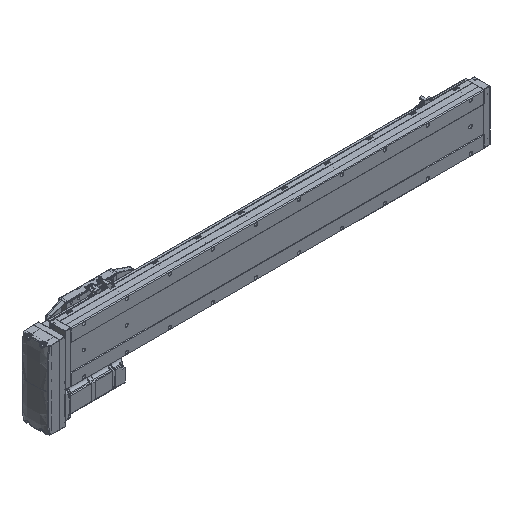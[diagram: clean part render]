
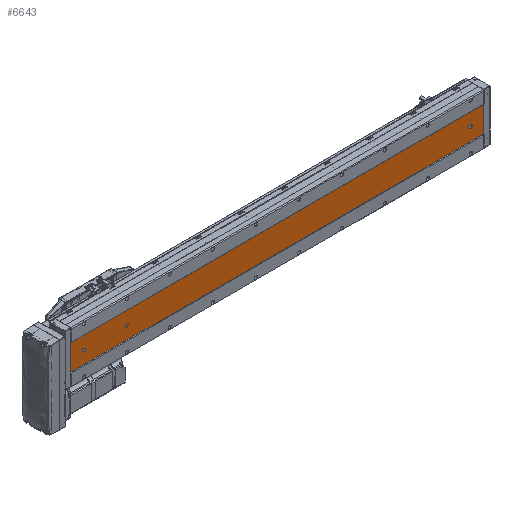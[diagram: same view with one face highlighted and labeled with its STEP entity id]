
A CAD part, isometric view. The second image highlights one B-rep face of the part: STEP entity #6643.
In plain terms, the highlighted planar face has unit normal (0, -1, 0).
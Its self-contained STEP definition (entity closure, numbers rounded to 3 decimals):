
#202 = EDGE_CURVE ( 'NONE', #18356, #55794, #32560, .T. ) ;
#2079 = PLANE ( 'NONE',  #28845 ) ;
#2330 = CARTESIAN_POINT ( 'NONE',  ( -39.892, -52.848, 827.5 ) ) ;
#2980 = LINE ( 'NONE', #37071, #73500 ) ;
#3958 = CIRCLE ( 'NONE', #7299, 3.5 ) ;
#4096 = EDGE_CURVE ( 'NONE', #54450, #49932, #24594, .T. ) ;
#4420 = DIRECTION ( 'NONE',  ( 0., 0., 1. ) ) ;
#5486 = FACE_OUTER_BOUND ( 'NONE', #45948, .T. ) ;
#6013 = EDGE_CURVE ( 'NONE', #56969, #41887, #58754, .T. ) ;
#6404 = VERTEX_POINT ( 'NONE', #51181 ) ;
#6546 = VECTOR ( 'NONE', #16145, 1000. ) ;
#6643 = ADVANCED_FACE ( 'NONE', ( #51528, #80124, #18780, #5486 ), #2079, .F. ) ;
#6940 = LINE ( 'NONE', #46637, #57974 ) ;
#7299 = AXIS2_PLACEMENT_3D ( 'NONE', #76180, #69909, #37367 ) ;
#7554 = CARTESIAN_POINT ( 'NONE',  ( -39.892, -52.848, 26.5 ) ) ;
#7706 = ORIENTED_EDGE ( 'NONE', *, *, #9580, .T. ) ;
#8050 = CARTESIAN_POINT ( 'NONE',  ( -39.892, -52.848, 831. ) ) ;
#9075 = ORIENTED_EDGE ( 'NONE', *, *, #51577, .T. ) ;
#9580 = EDGE_CURVE ( 'NONE', #41887, #56969, #46934, .T. ) ;
#11309 = VERTEX_POINT ( 'NONE', #26882 ) ;
#11596 = EDGE_CURVE ( 'NONE', #66122, #74610, #3958, .T. ) ;
#11718 = EDGE_CURVE ( 'NONE', #11309, #66122, #64222, .T. ) ;
#12088 = EDGE_CURVE ( 'NONE', #49932, #60647, #6940, .T. ) ;
#14264 = ORIENTED_EDGE ( 'NONE', *, *, #14597, .T. ) ;
#14597 = EDGE_CURVE ( 'NONE', #74610, #15213, #32148, .T. ) ;
#15213 = VERTEX_POINT ( 'NONE', #49954 ) ;
#15727 = EDGE_LOOP ( 'NONE', ( #35881, #23816 ) ) ;
#16145 = DIRECTION ( 'NONE',  ( 0., 0., 1. ) ) ;
#16817 = CARTESIAN_POINT ( 'NONE',  ( -9.892, -52.848, 961. ) ) ;
#17095 = DIRECTION ( 'NONE',  ( 0., 0., -1. ) ) ;
#17818 = ORIENTED_EDGE ( 'NONE', *, *, #6013, .T. ) ;
#17821 = EDGE_CURVE ( 'NONE', #54450, #61113, #2980, .T. ) ;
#18356 = VERTEX_POINT ( 'NONE', #46092 ) ;
#18780 = FACE_BOUND ( 'NONE', #15727, .T. ) ;
#19803 = DIRECTION ( 'NONE',  ( 1., 0., 0. ) ) ;
#19877 = DIRECTION ( 'NONE',  ( 0., 0., 1. ) ) ;
#20797 = CARTESIAN_POINT ( 'NONE',  ( -39.892, -52.848, 931. ) ) ;
#22413 = CARTESIAN_POINT ( 'NONE',  ( -43.392, -52.848, 961. ) ) ;
#23816 = ORIENTED_EDGE ( 'NONE', *, *, #64592, .T. ) ;
#24354 = CARTESIAN_POINT ( 'NONE',  ( -43.392, -52.848, 30. ) ) ;
#24432 = AXIS2_PLACEMENT_3D ( 'NONE', #47271, #58982, #19877 ) ;
#24594 = LINE ( 'NONE', #42654, #45058 ) ;
#25430 = CARTESIAN_POINT ( 'NONE',  ( -9.892, -52.848, 0. ) ) ;
#26773 = EDGE_LOOP ( 'NONE', ( #7706, #17818 ) ) ;
#26882 = CARTESIAN_POINT ( 'NONE',  ( -36.392, -52.848, 30. ) ) ;
#27382 = DIRECTION ( 'NONE',  ( 0., 1., 0. ) ) ;
#27616 = VECTOR ( 'NONE', #32482, 1000. ) ;
#28845 = AXIS2_PLACEMENT_3D ( 'NONE', #61140, #35209, #47764 ) ;
#32148 = LINE ( 'NONE', #22413, #6546 ) ;
#32482 = DIRECTION ( 'NONE',  ( 0., 0., -1. ) ) ;
#32560 = CIRCLE ( 'NONE', #67846, 3.5 ) ;
#32792 = ORIENTED_EDGE ( 'NONE', *, *, #12088, .T. ) ;
#34322 = DIRECTION ( 'NONE',  ( 0., 0., 1. ) ) ;
#35209 = DIRECTION ( 'NONE',  ( 0., 1., 0. ) ) ;
#35881 = ORIENTED_EDGE ( 'NONE', *, *, #202, .T. ) ;
#37071 = CARTESIAN_POINT ( 'NONE',  ( -69.892, -52.848, 961. ) ) ;
#37367 = DIRECTION ( 'NONE',  ( 0., 0., 1. ) ) ;
#38270 = AXIS2_PLACEMENT_3D ( 'NONE', #43826, #62955, #4420 ) ;
#39091 = AXIS2_PLACEMENT_3D ( 'NONE', #68379, #48674, #67837 ) ;
#41887 = VERTEX_POINT ( 'NONE', #2330 ) ;
#42654 = CARTESIAN_POINT ( 'NONE',  ( -69.892, -52.848, 961. ) ) ;
#43826 = CARTESIAN_POINT ( 'NONE',  ( -39.892, -52.848, 32. ) ) ;
#45058 = VECTOR ( 'NONE', #76059, 1000. ) ;
#45948 = EDGE_LOOP ( 'NONE', ( #32792, #46328, #74516, #73714 ) ) ;
#46092 = CARTESIAN_POINT ( 'NONE',  ( -39.892, -52.848, 927.5 ) ) ;
#46328 = ORIENTED_EDGE ( 'NONE', *, *, #72802, .F. ) ;
#46637 = CARTESIAN_POINT ( 'NONE',  ( -69.892, -52.848, 0. ) ) ;
#46934 = CIRCLE ( 'NONE', #72859, 3.5 ) ;
#47271 = CARTESIAN_POINT ( 'NONE',  ( -39.892, -52.848, 831. ) ) ;
#47764 = DIRECTION ( 'NONE',  ( 0., 0., 1. ) ) ;
#47813 = DIRECTION ( 'NONE',  ( 0., 1., 0. ) ) ;
#48674 = DIRECTION ( 'NONE',  ( 0., 1., 0. ) ) ;
#48714 = DIRECTION ( 'NONE',  ( 0., 0., 1. ) ) ;
#49014 = LINE ( 'NONE', #71568, #27616 ) ;
#49124 = EDGE_LOOP ( 'NONE', ( #9075, #76363, #75814, #14264, #74153 ) ) ;
#49932 = VERTEX_POINT ( 'NONE', #65473 ) ;
#49954 = CARTESIAN_POINT ( 'NONE',  ( -43.392, -52.848, 32. ) ) ;
#50883 = VECTOR ( 'NONE', #17095, 1000. ) ;
#51181 = CARTESIAN_POINT ( 'NONE',  ( -36.392, -52.848, 32. ) ) ;
#51528 = FACE_BOUND ( 'NONE', #49124, .T. ) ;
#51577 = EDGE_CURVE ( 'NONE', #6404, #11309, #49014, .T. ) ;
#53788 = CARTESIAN_POINT ( 'NONE',  ( -39.892, -52.848, 931. ) ) ;
#54450 = VERTEX_POINT ( 'NONE', #64814 ) ;
#54594 = CARTESIAN_POINT ( 'NONE',  ( -39.892, -52.848, 934.5 ) ) ;
#55273 = CARTESIAN_POINT ( 'NONE',  ( -9.892, -52.848, 961. ) ) ;
#55794 = VERTEX_POINT ( 'NONE', #54594 ) ;
#56711 = DIRECTION ( 'NONE',  ( 1., 0., 0. ) ) ;
#56969 = VERTEX_POINT ( 'NONE', #81029 ) ;
#57974 = VECTOR ( 'NONE', #19803, 1000. ) ;
#58754 = CIRCLE ( 'NONE', #24432, 3.5 ) ;
#58982 = DIRECTION ( 'NONE',  ( 0., 1., 0. ) ) ;
#60647 = VERTEX_POINT ( 'NONE', #25430 ) ;
#61053 = CIRCLE ( 'NONE', #38270, 3.5 ) ;
#61113 = VERTEX_POINT ( 'NONE', #55273 ) ;
#61140 = CARTESIAN_POINT ( 'NONE',  ( -69.892, -52.848, 961. ) ) ;
#62955 = DIRECTION ( 'NONE',  ( 0., 1., 0. ) ) ;
#64222 = CIRCLE ( 'NONE', #39091, 3.5 ) ;
#64592 = EDGE_CURVE ( 'NONE', #55794, #18356, #68276, .T. ) ;
#64814 = CARTESIAN_POINT ( 'NONE',  ( -69.892, -52.848, 961. ) ) ;
#65473 = CARTESIAN_POINT ( 'NONE',  ( -69.892, -52.848, 0. ) ) ;
#66122 = VERTEX_POINT ( 'NONE', #7554 ) ;
#66250 = LINE ( 'NONE', #16817, #50883 ) ;
#66933 = DIRECTION ( 'NONE',  ( 0., 0., 1. ) ) ;
#67837 = DIRECTION ( 'NONE',  ( 0., 0., 1. ) ) ;
#67846 = AXIS2_PLACEMENT_3D ( 'NONE', #20797, #27382, #48714 ) ;
#68276 = CIRCLE ( 'NONE', #79750, 3.5 ) ;
#68379 = CARTESIAN_POINT ( 'NONE',  ( -39.892, -52.848, 30. ) ) ;
#69909 = DIRECTION ( 'NONE',  ( 0., 1., 0. ) ) ;
#71568 = CARTESIAN_POINT ( 'NONE',  ( -36.392, -52.848, 961. ) ) ;
#72802 = EDGE_CURVE ( 'NONE', #61113, #60647, #66250, .T. ) ;
#72859 = AXIS2_PLACEMENT_3D ( 'NONE', #8050, #79448, #34322 ) ;
#73500 = VECTOR ( 'NONE', #56711, 1000. ) ;
#73714 = ORIENTED_EDGE ( 'NONE', *, *, #4096, .T. ) ;
#74153 = ORIENTED_EDGE ( 'NONE', *, *, #78833, .T. ) ;
#74516 = ORIENTED_EDGE ( 'NONE', *, *, #17821, .F. ) ;
#74610 = VERTEX_POINT ( 'NONE', #24354 ) ;
#75814 = ORIENTED_EDGE ( 'NONE', *, *, #11596, .T. ) ;
#76059 = DIRECTION ( 'NONE',  ( 0., 0., -1. ) ) ;
#76180 = CARTESIAN_POINT ( 'NONE',  ( -39.892, -52.848, 30. ) ) ;
#76363 = ORIENTED_EDGE ( 'NONE', *, *, #11718, .T. ) ;
#78833 = EDGE_CURVE ( 'NONE', #15213, #6404, #61053, .T. ) ;
#79448 = DIRECTION ( 'NONE',  ( 0., 1., 0. ) ) ;
#79750 = AXIS2_PLACEMENT_3D ( 'NONE', #53788, #47813, #66933 ) ;
#80124 = FACE_BOUND ( 'NONE', #26773, .T. ) ;
#81029 = CARTESIAN_POINT ( 'NONE',  ( -39.892, -52.848, 834.5 ) ) ;
